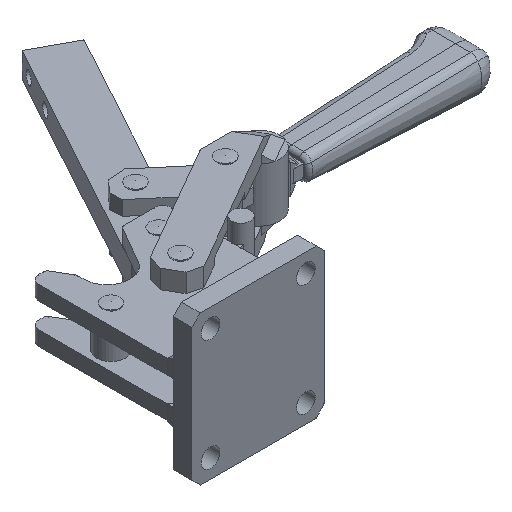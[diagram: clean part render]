
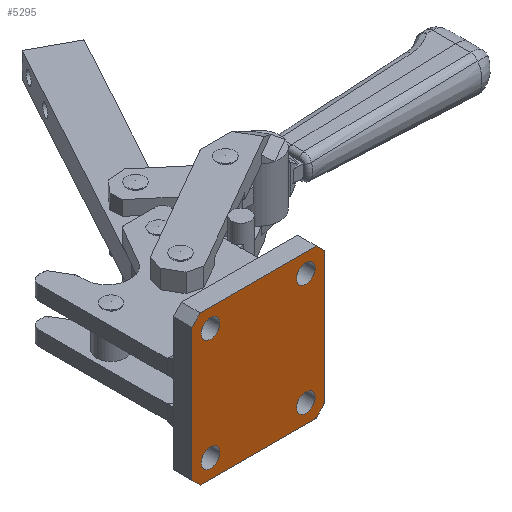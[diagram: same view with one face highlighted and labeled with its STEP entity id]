
A CAD part, isometric view. The second image highlights one B-rep face of the part: STEP entity #5295.
In plain terms, the highlighted planar face has unit normal (0, -1, 0).
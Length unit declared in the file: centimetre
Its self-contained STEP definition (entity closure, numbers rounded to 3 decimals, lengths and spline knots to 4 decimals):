
#150=FACE_BOUND($,#868,.T.);
#151=FACE_BOUND($,#869,.T.);
#152=FACE_BOUND($,#870,.T.);
#153=FACE_BOUND($,#871,.T.);
#154=FACE_BOUND($,#872,.T.);
#315=PLANE($,#5735);
#868=EDGE_LOOP($,(#3831));
#869=EDGE_LOOP($,(#3832));
#870=EDGE_LOOP($,(#3833));
#871=EDGE_LOOP($,(#3834));
#872=EDGE_LOOP($,(#3835,#3836,#3837,#3838,#3839,#3840,#3841,#3842));
#1359=LINE($,#7969,#1831);
#1360=LINE($,#7971,#1832);
#1361=LINE($,#7973,#1833);
#1362=LINE($,#7975,#1834);
#1363=LINE($,#7977,#1835);
#1364=LINE($,#7979,#1836);
#1365=LINE($,#7981,#1837);
#1366=LINE($,#7982,#1838);
#1831=VECTOR($,#6401,1.);
#1832=VECTOR($,#6402,1.);
#1833=VECTOR($,#6403,1.);
#1834=VECTOR($,#6404,1.);
#1835=VECTOR($,#6405,1.);
#1836=VECTOR($,#6406,1.);
#1837=VECTOR($,#6407,1.);
#1838=VECTOR($,#6408,1.);
#2241=CIRCLE($,#5724,0.45);
#2243=CIRCLE($,#5727,0.45);
#2245=CIRCLE($,#5730,0.45);
#2247=CIRCLE($,#5733,0.45);
#2476=VERTEX_POINT($,#7947);
#2478=VERTEX_POINT($,#7952);
#2480=VERTEX_POINT($,#7957);
#2482=VERTEX_POINT($,#7962);
#2484=VERTEX_POINT($,#7967);
#2485=VERTEX_POINT($,#7968);
#2486=VERTEX_POINT($,#7970);
#2487=VERTEX_POINT($,#7972);
#2488=VERTEX_POINT($,#7974);
#2489=VERTEX_POINT($,#7976);
#2490=VERTEX_POINT($,#7978);
#2491=VERTEX_POINT($,#7980);
#3010=EDGE_CURVE($,#2476,#2476,#2241,.T.);
#3012=EDGE_CURVE($,#2478,#2478,#2243,.T.);
#3014=EDGE_CURVE($,#2480,#2480,#2245,.T.);
#3016=EDGE_CURVE($,#2482,#2482,#2247,.T.);
#3018=EDGE_CURVE($,#2484,#2485,#1359,.T.);
#3019=EDGE_CURVE($,#2486,#2484,#1360,.T.);
#3020=EDGE_CURVE($,#2487,#2486,#1361,.T.);
#3021=EDGE_CURVE($,#2488,#2487,#1362,.T.);
#3022=EDGE_CURVE($,#2489,#2488,#1363,.T.);
#3023=EDGE_CURVE($,#2490,#2489,#1364,.T.);
#3024=EDGE_CURVE($,#2491,#2490,#1365,.T.);
#3025=EDGE_CURVE($,#2485,#2491,#1366,.T.);
#3831=ORIENTED_EDGE($,*,*,#3010,.T.);
#3832=ORIENTED_EDGE($,*,*,#3012,.T.);
#3833=ORIENTED_EDGE($,*,*,#3014,.T.);
#3834=ORIENTED_EDGE($,*,*,#3016,.T.);
#3835=ORIENTED_EDGE($,*,*,#3018,.F.);
#3836=ORIENTED_EDGE($,*,*,#3019,.F.);
#3837=ORIENTED_EDGE($,*,*,#3020,.F.);
#3838=ORIENTED_EDGE($,*,*,#3021,.F.);
#3839=ORIENTED_EDGE($,*,*,#3022,.F.);
#3840=ORIENTED_EDGE($,*,*,#3023,.F.);
#3841=ORIENTED_EDGE($,*,*,#3024,.F.);
#3842=ORIENTED_EDGE($,*,*,#3025,.F.);
#5295=ADVANCED_FACE($,(#150,#151,#152,#153,#154),#315,.F.);
#5724=AXIS2_PLACEMENT_3D($,#7948,#6377,#6378);
#5727=AXIS2_PLACEMENT_3D($,#7953,#6383,#6384);
#5730=AXIS2_PLACEMENT_3D($,#7958,#6389,#6390);
#5733=AXIS2_PLACEMENT_3D($,#7963,#6395,#6396);
#5735=AXIS2_PLACEMENT_3D($,#7966,#6399,#6400);
#6377=DIRECTION('center_axis',(0.,1.,0.));
#6378=DIRECTION('ref_axis',(1.,0.,0.));
#6383=DIRECTION('center_axis',(0.,1.,0.));
#6384=DIRECTION('ref_axis',(1.,0.,0.));
#6389=DIRECTION('center_axis',(0.,1.,0.));
#6390=DIRECTION('ref_axis',(1.,0.,0.));
#6395=DIRECTION('center_axis',(0.,1.,0.));
#6396=DIRECTION('ref_axis',(1.,0.,0.));
#6399=DIRECTION('center_axis',(0.,1.,0.));
#6400=DIRECTION('ref_axis',(0.,0.,1.));
#6401=DIRECTION($,(0.707,0.,-0.707));
#6402=DIRECTION($,(1.,0.,0.));
#6403=DIRECTION($,(0.707,0.,0.707));
#6404=DIRECTION($,(0.,0.,1.));
#6405=DIRECTION($,(-0.707,0.,0.707));
#6406=DIRECTION($,(-1.,0.,0.));
#6407=DIRECTION($,(-0.707,0.,-0.707));
#6408=DIRECTION($,(0.,0.,-1.));
#7947=CARTESIAN_POINT('',(-2.75,-0.45,2.7));
#7948=CARTESIAN_POINT('Origin',(-2.3,-0.45,2.7));
#7952=CARTESIAN_POINT('',(-2.75,-0.45,-2.7));
#7953=CARTESIAN_POINT('Origin',(-2.3,-0.45,-2.7));
#7957=CARTESIAN_POINT('',(1.85,-0.45,2.7));
#7958=CARTESIAN_POINT('Origin',(2.3,-0.45,2.7));
#7962=CARTESIAN_POINT('',(1.85,-0.45,-2.7));
#7963=CARTESIAN_POINT('Origin',(2.3,-0.45,-2.7));
#7966=CARTESIAN_POINT('Origin',(0.,-0.45,0.));
#7967=CARTESIAN_POINT('',(2.8,-0.45,3.6));
#7968=CARTESIAN_POINT('',(3.2,-0.45,3.2));
#7969=CARTESIAN_POINT($,(3.2,-0.45,3.2));
#7970=CARTESIAN_POINT('',(-2.8,-0.45,3.6));
#7971=CARTESIAN_POINT($,(2.8,-0.45,3.6));
#7972=CARTESIAN_POINT('',(-3.2,-0.45,3.2));
#7973=CARTESIAN_POINT($,(-2.8,-0.45,3.6));
#7974=CARTESIAN_POINT('',(-3.2,-0.45,-3.2));
#7975=CARTESIAN_POINT($,(-3.2,-0.45,3.2));
#7976=CARTESIAN_POINT('',(-2.8,-0.45,-3.6));
#7977=CARTESIAN_POINT($,(-3.2,-0.45,-3.2));
#7978=CARTESIAN_POINT('',(2.8,-0.45,-3.6));
#7979=CARTESIAN_POINT($,(-2.8,-0.45,-3.6));
#7980=CARTESIAN_POINT('',(3.2,-0.45,-3.2));
#7981=CARTESIAN_POINT($,(2.8,-0.45,-3.6));
#7982=CARTESIAN_POINT($,(3.2,-0.45,-3.2));
